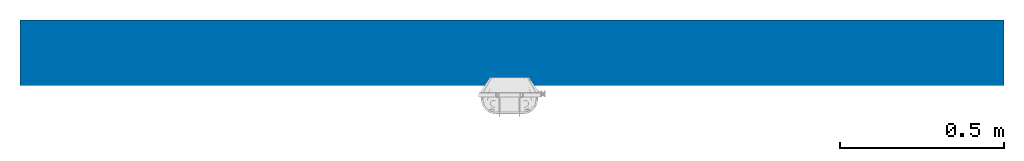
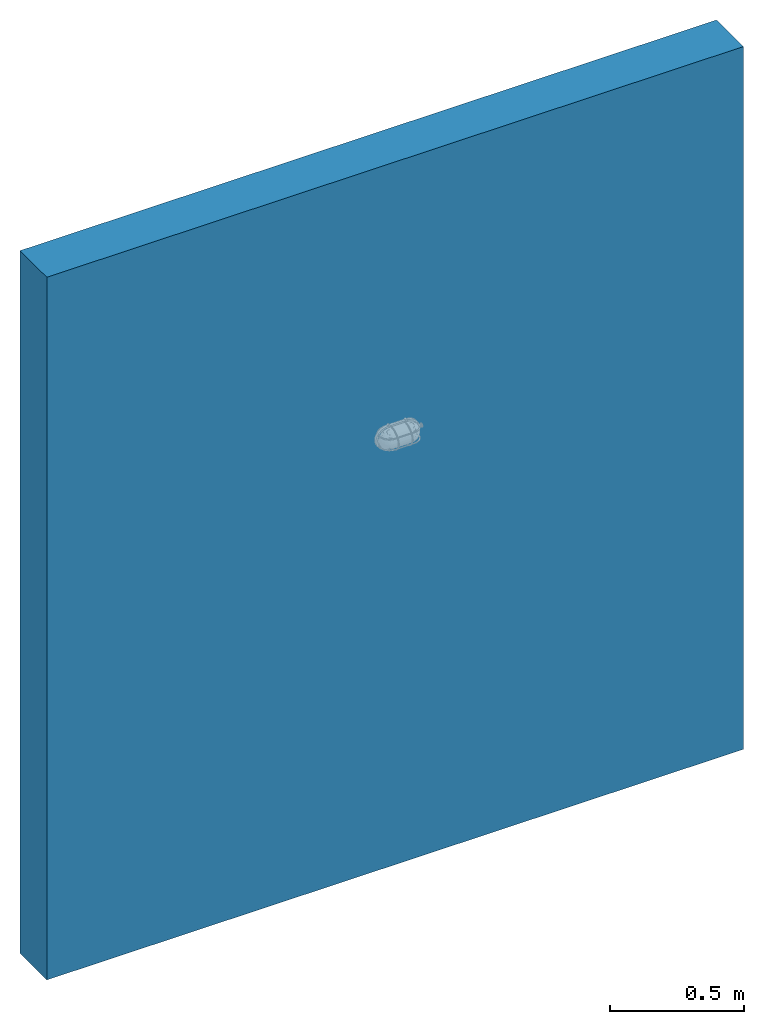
# One storey, part 1 of 2: 1 wall, 4 openings.
"""IFC2X3 building model written with IfcOpenShell, lengths in metres."""

from ifc_helpers import new_model, si_unit, direction, frame, frame_2d, origin, place, context, subcontext, project, spatial, rectangle, extrude, faceted_brep, material, layer, layer_set, layer_usage, type_object, element, save


model = new_model("IFC2X3")

# Units and contexts
model_context = context("Model", 3, precision=1e-05, world=origin(), true_north=direction((6.123233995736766e-17, 1.0)))
body_context = subcontext(model_context, "Body", "Model", "MODEL_VIEW")
ifc_project = project(units=[si_unit("LENGTHUNIT", "METRE"), si_unit("AREAUNIT", "SQUARE_METRE")], contexts=[model_context])

# Site, building, storey
site_placement = place(None, origin())
site = spatial("IfcSite", under=ifc_project, at=site_placement, Name="Default", CompositionType="ELEMENT")
building_placement = place(site_placement, origin())
building = spatial("IfcBuilding", under=site, at=building_placement, CompositionType="ELEMENT")
storey_placement = place(building_placement, origin())
storey = spatial("IfcBuildingStorey", under=building, at=storey_placement, Name="Level 1", CompositionType="ELEMENT", Elevation=0.0)

# Wall, openings
ifc_material = material(Name="Default Wall")
ifc_layer = layer(ifc_material, 0.2)
ifc_layer_set = layer_set([ifc_layer], Name="Basic Wall:Wall 20cm2")
ifc_layer_usage = layer_usage(ifc_layer_set, "AXIS2", "NEGATIVE", 0.1)
wall_type = type_object("IfcWallType", Name="Basic Wall:Wall 20cm2", PredefinedType="STANDARD", material=ifc_layer_set)
wall_placement = place(storey_placement, frame((-6.583921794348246, 0.22365605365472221, 0.0)))
wall = element("IfcWallStandardCase", 1, at=wall_placement, inside=storey, type_object=wall_type, material=ifc_layer_usage, Name="Basic Wall:Wall 20cm2", ObjectType="Basic Wall:Wall 20cm2", context=body_context, shape_type="SweptSolid", body=[
    extrude(rectangle(XDim=3.0000000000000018, YDim=0.2, at=frame_2d((1.5000000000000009, 0.0), x_axis=(-1.0, 0.0))), origin(), (0.0, 0.0, 1.0), 3.2),
])
opening_1_placement = place(wall_placement, frame((6.583921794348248, -0.22365605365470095, 1.982499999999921)))
element("IfcOpeningElement", 2, at=opening_1_placement, cuts=wall, Name="Basic Wall:Wall 20cm2", ObjectType="Opening", context=body_context, shape_type="Brep", body=[
    faceted_brep([(-5.127882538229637, 0.08813224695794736, 0.055751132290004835), (-5.129882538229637, 0.08813224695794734, 0.055751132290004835), (-5.129882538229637, 0.08813224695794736, 0.05426523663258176), (-5.131382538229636, 0.08813224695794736, 0.05426523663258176), (-5.131382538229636, 0.08813224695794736, 0.05246523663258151), (-5.129882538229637, 0.08813224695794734, 0.05246523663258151), (-5.129882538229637, 0.08813224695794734, 0.0509652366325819), (-5.127882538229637, 0.08813224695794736, 0.0509652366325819), (-5.1278825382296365, 0.08813224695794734, 0.05246523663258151), (-5.126380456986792, 0.08813224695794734, 0.05246523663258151), (-5.126380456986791, 0.08813224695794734, 0.05426523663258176), (-5.127882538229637, 0.08813224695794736, 0.05426523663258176), (-5.128282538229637, 0.0895022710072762, 0.05535113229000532), (-5.128282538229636, 0.08950227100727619, 0.0538652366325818), (-5.126780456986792, 0.08950227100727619, 0.0538652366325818), (-5.126780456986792, 0.08950227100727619, 0.05286523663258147), (-5.128282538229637, 0.0895022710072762, 0.05286523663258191), (-5.128282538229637, 0.0895022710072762, 0.05136523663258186), (-5.129482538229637, 0.0895022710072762, 0.05136523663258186), (-5.129482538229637, 0.08950227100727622, 0.05286523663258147), (-5.130982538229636, 0.0895022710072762, 0.05286523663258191), (-5.130982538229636, 0.0895022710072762, 0.0538652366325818), (-5.129482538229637, 0.0895022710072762, 0.0538652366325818), (-5.129482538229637, 0.0895022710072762, 0.05535113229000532)], [[[0, 1, 2, 3, 4, 5, 6, 7, 8, 9, 10, 11]], [[12, 13, 14, 15, 16, 17, 18, 19, 20, 21, 22, 23]], [[12, 23, 1, 0]], [[23, 22, 2, 1]], [[22, 21, 3, 2]], [[21, 20, 4, 3]], [[20, 19, 5, 4]], [[19, 18, 6, 5]], [[18, 17, 7, 6]], [[17, 16, 8, 7]], [[16, 15, 9, 8]], [[15, 14, 10, 9]], [[14, 13, 11, 10]], [[13, 12, 0, 11]]]),
])
opening_2_placement = place(wall_placement, frame((6.583921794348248, -0.22365605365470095, 1.982499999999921)))
element("IfcOpeningElement", 3, at=opening_2_placement, cuts=wall, Name="Basic Wall:Wall 20cm2", ObjectType="Opening", context=body_context, shape_type="Brep", body=[
    faceted_brep([(-5.054961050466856, 0.08813224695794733, 0.055751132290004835), (-5.054961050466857, 0.08813224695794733, 0.05426523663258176), (-5.056463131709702, 0.08813224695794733, 0.05426523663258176), (-5.056463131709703, 0.08813224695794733, 0.05246523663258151), (-5.054961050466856, 0.08813224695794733, 0.05246523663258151), (-5.054961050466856, 0.08813224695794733, 0.0509652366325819), (-5.052961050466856, 0.08813224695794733, 0.0509652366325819), (-5.052961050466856, 0.08813224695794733, 0.05246523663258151), (-5.051461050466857, 0.08813224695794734, 0.05246523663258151), (-5.051461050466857, 0.08813224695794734, 0.05426523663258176), (-5.052961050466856, 0.08813224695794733, 0.05426523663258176), (-5.052961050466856, 0.08813224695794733, 0.055751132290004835), (-5.054561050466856, 0.08950227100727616, 0.05535113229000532), (-5.053361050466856, 0.08950227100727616, 0.05535113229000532), (-5.053361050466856, 0.08950227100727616, 0.0538652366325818), (-5.051861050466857, 0.08950227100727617, 0.0538652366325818), (-5.051861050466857, 0.08950227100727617, 0.05286523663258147), (-5.053361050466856, 0.08950227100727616, 0.05286523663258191), (-5.053361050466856, 0.08950227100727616, 0.05136523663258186), (-5.054561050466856, 0.08950227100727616, 0.05136523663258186), (-5.054561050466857, 0.08950227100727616, 0.05286523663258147), (-5.056063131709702, 0.08950227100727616, 0.05286523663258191), (-5.056063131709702, 0.08950227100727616, 0.0538652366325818), (-5.054561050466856, 0.08950227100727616, 0.0538652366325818)], [[[0, 1, 2, 3, 4, 5, 6, 7, 8, 9, 10, 11]], [[12, 13, 14, 15, 16, 17, 18, 19, 20, 21, 22, 23]], [[12, 0, 11, 13]], [[13, 11, 10, 14]], [[14, 10, 9, 15]], [[15, 9, 8, 16]], [[16, 8, 7, 17]], [[17, 7, 6, 18]], [[18, 6, 5, 19]], [[19, 5, 4, 20]], [[20, 4, 3, 21]], [[21, 3, 2, 22]], [[22, 2, 1, 23]], [[23, 1, 0, 12]]]),
])
opening_3_placement = place(wall_placement, frame((6.583921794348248, -0.22365605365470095, 1.982499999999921)))
element("IfcOpeningElement", 4, at=opening_3_placement, cuts=wall, Name="Basic Wall:Wall 20cm2", ObjectType="Opening", context=body_context, shape_type="Brep", body=[
    faceted_brep([(-5.127882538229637, 0.08813224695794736, -0.05575113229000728), (-5.1278825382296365, 0.08813224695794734, -0.05426523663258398), (-5.126380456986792, 0.08813224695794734, -0.0542652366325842), (-5.126380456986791, 0.08813224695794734, -0.052465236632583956), (-5.127882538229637, 0.08813224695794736, -0.052465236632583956), (-5.127882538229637, 0.08813224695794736, -0.05096523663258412), (-5.129882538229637, 0.08813224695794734, -0.05096523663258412), (-5.129882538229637, 0.08813224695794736, -0.052465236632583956), (-5.131382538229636, 0.08813224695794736, -0.052465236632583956), (-5.131382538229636, 0.08813224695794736, -0.05426523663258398), (-5.129882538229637, 0.08813224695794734, -0.0542652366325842), (-5.129882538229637, 0.08813224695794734, -0.05575113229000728), (-5.128282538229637, 0.0895022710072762, -0.05535113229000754), (-5.129482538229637, 0.0895022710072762, -0.05535113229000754), (-5.129482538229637, 0.08950227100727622, -0.053865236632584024), (-5.130982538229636, 0.0895022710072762, -0.053865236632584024), (-5.130982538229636, 0.0895022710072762, -0.05286523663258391), (-5.129482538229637, 0.0895022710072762, -0.052865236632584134), (-5.129482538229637, 0.0895022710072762, -0.05136523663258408), (-5.128282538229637, 0.0895022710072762, -0.05136523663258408), (-5.128282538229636, 0.08950227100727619, -0.05286523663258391), (-5.126780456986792, 0.08950227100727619, -0.052865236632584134), (-5.126780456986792, 0.08950227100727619, -0.053865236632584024), (-5.128282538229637, 0.0895022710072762, -0.053865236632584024)], [[[0, 1, 2, 3, 4, 5, 6, 7, 8, 9, 10, 11]], [[12, 13, 14, 15, 16, 17, 18, 19, 20, 21, 22, 23]], [[12, 0, 11, 13]], [[13, 11, 10, 14]], [[14, 10, 9, 15]], [[15, 9, 8, 16]], [[16, 8, 7, 17]], [[17, 7, 6, 18]], [[18, 6, 5, 19]], [[19, 5, 4, 20]], [[20, 4, 3, 21]], [[21, 3, 2, 22]], [[22, 2, 1, 23]], [[23, 1, 0, 12]]]),
])
opening_4_placement = place(wall_placement, frame((6.583921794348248, -0.22365605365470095, 1.982499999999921)))
element("IfcOpeningElement", 5, at=opening_4_placement, cuts=wall, Name="Basic Wall:Wall 20cm2", ObjectType="Opening", context=body_context, shape_type="Brep", body=[
    faceted_brep([(-5.054961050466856, 0.0881322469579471, -0.05575113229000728), (-5.052961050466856, 0.0881322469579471, -0.05575113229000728), (-5.052961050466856, 0.08813224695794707, -0.05426523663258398), (-5.051461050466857, 0.08813224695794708, -0.0542652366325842), (-5.051461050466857, 0.08813224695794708, -0.052465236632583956), (-5.052961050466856, 0.0881322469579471, -0.052465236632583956), (-5.052961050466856, 0.0881322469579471, -0.05096523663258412), (-5.054961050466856, 0.0881322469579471, -0.05096523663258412), (-5.054961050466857, 0.08813224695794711, -0.052465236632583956), (-5.056463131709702, 0.08813224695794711, -0.052465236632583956), (-5.056463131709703, 0.08813224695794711, -0.05426523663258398), (-5.054961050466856, 0.0881322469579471, -0.0542652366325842), (-5.054561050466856, 0.08950227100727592, -0.05535113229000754), (-5.054561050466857, 0.08950227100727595, -0.053865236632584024), (-5.056063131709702, 0.08950227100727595, -0.053865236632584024), (-5.056063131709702, 0.08950227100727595, -0.05286523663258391), (-5.054561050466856, 0.08950227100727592, -0.052865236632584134), (-5.054561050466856, 0.08950227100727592, -0.05136523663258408), (-5.053361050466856, 0.08950227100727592, -0.05136523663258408), (-5.053361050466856, 0.08950227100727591, -0.05286523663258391), (-5.051861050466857, 0.08950227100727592, -0.052865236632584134), (-5.051861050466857, 0.08950227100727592, -0.053865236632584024), (-5.053361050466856, 0.08950227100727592, -0.053865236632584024), (-5.053361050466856, 0.08950227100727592, -0.05535113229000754)], [[[0, 1, 2, 3, 4, 5, 6, 7, 8, 9, 10, 11]], [[12, 13, 14, 15, 16, 17, 18, 19, 20, 21, 22, 23]], [[12, 23, 1, 0]], [[23, 22, 2, 1]], [[22, 21, 3, 2]], [[21, 20, 4, 3]], [[20, 19, 5, 4]], [[19, 18, 6, 5]], [[18, 17, 7, 6]], [[17, 16, 8, 7]], [[16, 15, 9, 8]], [[15, 14, 10, 9]], [[14, 13, 11, 10]], [[13, 12, 0, 11]]]),
])

save(model, "model.ifc")
